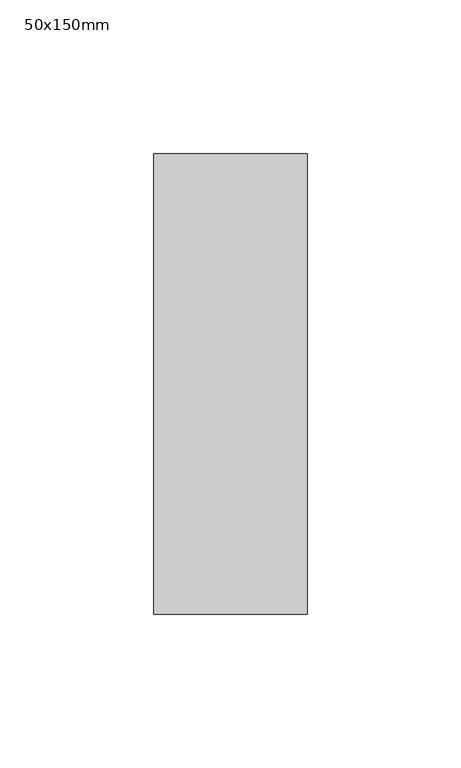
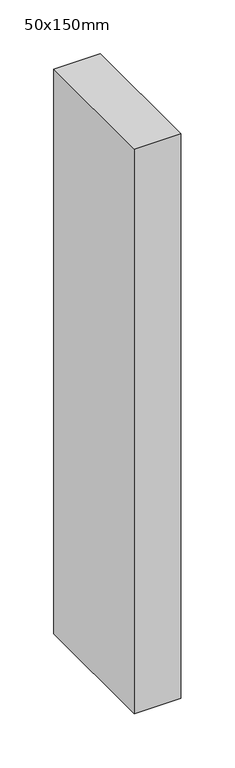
"""IFC4 building model written with IfcOpenShell, lengths in millimetres: member geometry, 長方形マリオン : 50x150mm."""

from ifc_helpers import new_model, si_unit, frame, origin, place, context, project, spatial, polyline, outline, extrude, source, transform, mapped, element, save


def member_50x150mm_62bde7b1(model_context):
    return source(origin(), model_context, "Body", "SweptSolid", [
        extrude(outline(polyline([(25.0, 75.0), (25.0, -75.0), (-25.0, -75.0), (-25.0, 75.0), (25.0, 75.0)])), frame((0.0, 0.0, -641.6666667), z_axis=(0.0, 0.0, 1.0), x_axis=(1.0, 0.0, 0.0)), (0.0, 0.0, 1.0), 641.6666667),
    ])


if __name__ == "__main__":
    model = new_model("IFC4")
    model_context = context("Model", 3, world=origin())
    ifc_project = project(units=[si_unit("LENGTHUNIT", "METRE", prefix="MILLI")], contexts=[model_context])
    site = spatial("IfcSite", under=ifc_project)
    building = spatial("IfcBuilding", under=site)
    placement = place(None, origin())
    member_50x150mm_shape = member_50x150mm_62bde7b1(model_context)
    element("IfcMember", 1, ObjectType="長方形マリオン : 50x150mm", at=placement, inside=building, context=model_context, shape_type="MappedRepresentation", body=[
        mapped(member_50x150mm_shape, transform((0.0, 0.0, 0.0), x_axis=(1.0, 0.0, 0.0), y_axis=(0.0, 1.0, 0.0), z_axis=(0.0, 0.0, 1.0))),
    ])
    save(model, "model.ifc")
